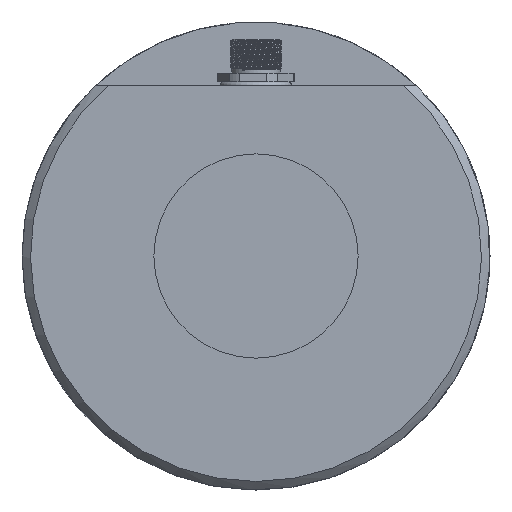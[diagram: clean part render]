
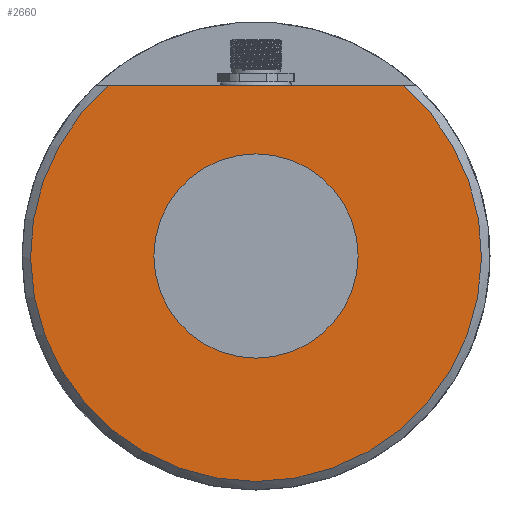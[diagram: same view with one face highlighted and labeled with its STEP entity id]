
A CAD part, left-side view. The second image highlights one B-rep face of the part: STEP entity #2660.
In plain terms, the highlighted planar face has unit normal (-1, 0, 0).
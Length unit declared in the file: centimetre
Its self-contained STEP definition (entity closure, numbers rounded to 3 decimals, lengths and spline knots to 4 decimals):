
#754=VECTOR('',#15436,1.);
#846=LINE('',#2976,#754);
#965=PLANE('',#2845);
#1034=VERTEX_POINT('',#2959);
#1037=VERTEX_POINT('',#2966);
#1104=VERTEX_POINT('',#4930);
#1233=CIRCLE('',#2768,5.3);
#1260=CIRCLE('',#2830,2.4);
#1309=EDGE_CURVE('',#1037,#1034,#1233,.T.);
#1314=EDGE_CURVE('',#1037,#1034,#846,.T.);
#1413=EDGE_CURVE('',#1104,#1104,#1260,.T.);
#1834=ORIENTED_EDGE('',*,*,#1309,.F.);
#1835=ORIENTED_EDGE('',*,*,#1314,.T.);
#1836=ORIENTED_EDGE('',*,*,#1413,.T.);
#2278=EDGE_LOOP('',(#1834,#1835));
#2279=EDGE_LOOP('',(#1836));
#2474=FACE_BOUND('',#2278,.T.);
#2475=FACE_BOUND('',#2279,.T.);
#2660=ADVANCED_FACE('',(#2474,#2475),#965,.T.);
#2768=AXIS2_PLACEMENT_3D('',#2967,#15428,#15429);
#2830=AXIS2_PLACEMENT_3D('',#4929,#15571,#15572);
#2845=AXIS2_PLACEMENT_3D('',#4950,#15595,$);
#2959=CARTESIAN_POINT('',(0.,3.4771,4.));
#2966=CARTESIAN_POINT('',(0.,-3.4771,4.));
#2967=CARTESIAN_POINT('',(0.,0.,0.));
#2976=CARTESIAN_POINT('',(0.,2.775,4.));
#4929=CARTESIAN_POINT('',(0.,0.,0.));
#4930=CARTESIAN_POINT('',(0.,0.,2.4));
#4950=CARTESIAN_POINT('',(0.,0.,-2.75));
#15428=DIRECTION('',(1.,0.,0.));
#15429=DIRECTION('',(0.,0.,-5.3));
#15436=DIRECTION('',(0.,1.,0.));
#15571=DIRECTION('',(1.,0.,0.));
#15572=DIRECTION('',(0.,0.,2.4));
#15595=DIRECTION('',(-1.,0.,0.));
